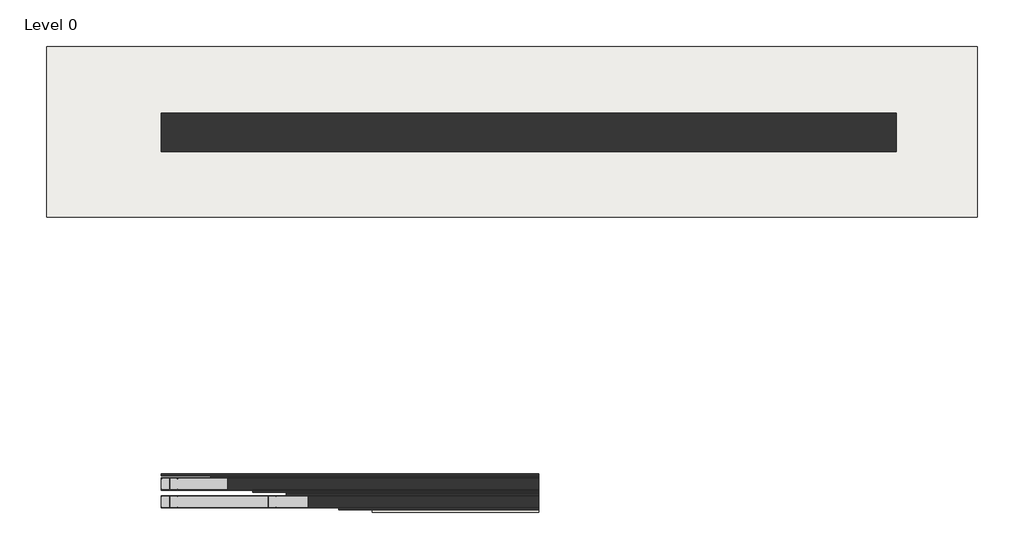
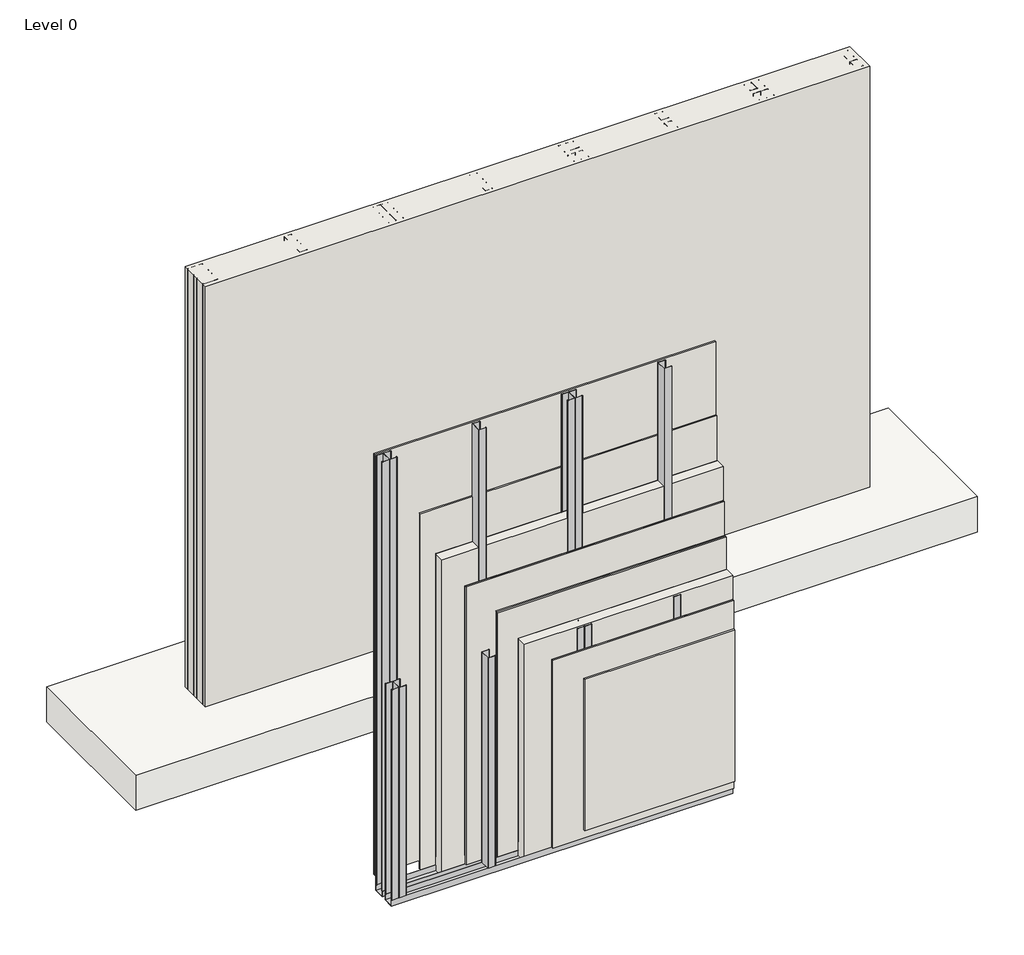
# One storey: 8 proxies, 2 walls, 1 slab.
"""IFC4 building model written with IfcOpenShell, lengths in millimetres."""

from ifc_helpers import new_model, si_unit, frame, origin, origin_with_axes, place, context, project, spatial, polyline, outline, extrude, transform, mapped, element, save
from components import generic_models_d371b926, generic_models_1c93a5be, generic_models_93a60fe8, horizontal_u_profile_75mm_horizontal_u_profile_75mm_bb70ac87, horizontal_u_profile_75mm_horizontal_u_profile_75mm_ae89cfe0

model = new_model("IFC4")

# Units and contexts
model_context = context("Model", 3, world=origin())
ifc_project = project(units=[si_unit("LENGTHUNIT", "METRE", prefix="MILLI")], contexts=[model_context])

# Site, building, storey
site = spatial("IfcSite", under=ifc_project)
building = spatial("IfcBuilding", under=site)
storey = spatial("IfcBuildingStorey", under=building, Name="Level 0", Elevation=0.0)

# Proxies
placement = place(None, origin())
generic_models_shape = generic_models_d371b926(model_context)
element("IfcBuildingElementProxy", 1, Name="C- 2xCprofile-75 : C- 2xCprofile-75", ObjectType="C- 2xCprofile-75 : C- 2xCprofile-75", at=placement, inside=storey, context=model_context, shape_type="MappedRepresentation", body=[
    mapped(generic_models_shape, transform((17885.0987507, -1538.0356313, -60.0), x_axis=(1.0, 0.0, 0.0), y_axis=(0.0, 0.0, 1.0), z_axis=(0.0, -1.0, 0.0))),
])
generic_models_2_shape = generic_models_1c93a5be(model_context)
element("IfcBuildingElementProxy", 2, Name="C- 2xCprofile-75 : C- 2xCprofile-75", ObjectType="C- 2xCprofile-75 : C- 2xCprofile-75", at=placement, inside=storey, context=model_context, shape_type="MappedRepresentation", body=[
    mapped(generic_models_2_shape, transform((17885.0987507, 661.9643687, 0.0), x_axis=(1.0, 0.0, 0.0), y_axis=(0.0, 0.0, 1.0), z_axis=(0.0, -1.0, 0.0))),
])
element("IfcBuildingElementProxy", 3, Name="C- 2xCprofile-75 : C- 2xCprofile-75", ObjectType="C- 2xCprofile-75 : C- 2xCprofile-75", at=placement, inside=storey, context=model_context, shape_type="MappedRepresentation", body=[
    mapped(generic_models_2_shape, transform((17885.0987507, 770.9643687, 0.0), x_axis=(1.0, 0.0, 0.0), y_axis=(0.0, 0.0, 1.0), z_axis=(0.0, -1.0, 0.0))),
])
generic_models_3_shape = generic_models_93a60fe8(model_context)
element("IfcBuildingElementProxy", 4, Name="C- 2xCprofile-75 : C- 2xCprofile-75", ObjectType="C- 2xCprofile-75 : C- 2xCprofile-75", at=placement, inside=storey, context=model_context, shape_type="MappedRepresentation", body=[
    mapped(generic_models_3_shape, transform((17885.0987507, -1429.0356313, -60.0), x_axis=(1.0, 0.0, 0.0), y_axis=(0.0, 0.0, 1.0), z_axis=(0.0, -1.0, 0.0))),
])
horizontal_u_profile_75mm_horizontal_u_profile_75mm_shape = horizontal_u_profile_75mm_horizontal_u_profile_75mm_bb70ac87(model_context)
element("IfcBuildingElementProxy", 5, Name="Horizontal U profile 75mm : Horizontal U profile 75mm", ObjectType="Horizontal U profile 75mm : Horizontal U profile 75mm", at=placement, inside=storey, context=model_context, shape_type="MappedRepresentation", body=[
    mapped(horizontal_u_profile_75mm_horizontal_u_profile_75mm_shape, transform((17808.6899394, 772.2643263, -100.0), x_axis=(1.0, 0.0, 0.0), y_axis=(0.0, 1.0, 0.0), z_axis=(0.0, 0.0, 1.0))),
])
element("IfcBuildingElementProxy", 6, Name="Horizontal U profile 75mm : Horizontal U profile 75mm", ObjectType="Horizontal U profile 75mm : Horizontal U profile 75mm", at=placement, inside=storey, context=model_context, shape_type="MappedRepresentation", body=[
    mapped(horizontal_u_profile_75mm_horizontal_u_profile_75mm_shape, transform((17808.6899394, 663.2643543, -100.0), x_axis=(1.0, 0.0, 0.0), y_axis=(0.0, 1.0, 0.0), z_axis=(0.0, 0.0, 1.0))),
])
horizontal_u_profile_75mm_horizontal_u_profile_75mm_2_shape = horizontal_u_profile_75mm_horizontal_u_profile_75mm_ae89cfe0(model_context)
element("IfcBuildingElementProxy", 7, Name="Horizontal U profile 75mm : Horizontal U profile 75mm", ObjectType="Horizontal U profile 75mm : Horizontal U profile 75mm", at=placement, inside=storey, context=model_context, shape_type="MappedRepresentation", body=[
    mapped(horizontal_u_profile_75mm_horizontal_u_profile_75mm_2_shape, transform((17808.6899394, -1427.7356737, -100.0), x_axis=(1.0, 0.0, 0.0), y_axis=(0.0, 1.0, 0.0), z_axis=(0.0, 0.0, 1.0))),
])
element("IfcBuildingElementProxy", 8, Name="Horizontal U profile 75mm : Horizontal U profile 75mm", ObjectType="Horizontal U profile 75mm : Horizontal U profile 75mm", at=placement, inside=storey, context=model_context, shape_type="MappedRepresentation", body=[
    mapped(horizontal_u_profile_75mm_horizontal_u_profile_75mm_2_shape, transform((17808.6899394, -1536.7356457, -100.0), x_axis=(1.0, 0.0, 0.0), y_axis=(0.0, 1.0, 0.0), z_axis=(0.0, 0.0, 1.0))),
])

# Slab
element("IfcSlab", 9, ObjectType="Floor-Jendy_Joss", at=placement, inside=storey, context=model_context, shape_type="SweptSolid", body=[
    extrude(outline(polyline([(22785.0987507, 1240.8230902), (22785.0987507, 200.8230902), (17109.653778, 200.8230902), (17109.653778, 1240.8230902), (22785.0987507, 1240.8230902)])), frame((0.0, 0.0, -250.0), z_axis=(0.0, 0.0, 1.0), x_axis=(1.0, 0.0, 0.0)), (0.0, 0.0, 1.0), 250.0),
])

# Walls
element("IfcWall", 10, ObjectType="Interior Wall_Modulo_JJ_I75cg+75cg", at=placement, inside=storey, context=model_context, shape_type="SweptSolid", body=[
    extrude(outline(polyline([(22289.653778, 599.4643687), (17809.653778, 599.4643687), (17809.653778, 833.4643687), (22289.653778, 833.4643687), (22289.653778, 599.4643687)])), origin_with_axes(), (0.0, 0.0, 1.0), 3000.0),
])
element("IfcWall", 11, ObjectType="Interior Wall_Modulo_JJ_I75cg+75cg", at=placement, inside=storey, context=model_context, shape_type="SweptSolid", body=[
    extrude(outline(polyline([(18889.653778, -1587.5356313), (18889.653778, -1575.5356313), (20109.653778, -1575.5356313), (20109.653778, -1587.5356313), (18889.653778, -1587.5356313)])), frame((0.0, 0.0, -60.0), z_axis=(0.0, 0.0, 1.0), x_axis=(1.0, 0.0, 0.0)), (0.0, 0.0, 1.0), 1340.0),
    extrude(outline(polyline([(18889.653778, -1575.5356313), (18889.653778, -1573.0356313), (20109.653778, -1573.0356313), (20109.653778, -1575.5356313), (18889.653778, -1575.5356313)])), origin_with_axes(), (0.0, 0.0, 1.0), 1280.0),
    extrude(outline(polyline([(18706.0950706, -1573.0356313), (18706.0950706, -1503.0356313), (20109.653778, -1503.0356313), (20109.653778, -1573.0356313), (18706.0950706, -1573.0356313)])), frame((0.0, 0.0, -99.2), z_axis=(0.0, 0.0, 1.0), x_axis=(1.0, 0.0, 0.0)), (0.0, 0.0, 1.0), 1549.9140997),
    extrude(outline(polyline([(18706.0950706, -1503.0356313), (18706.0950706, -1500.5356313), (20109.653778, -1500.5356313), (20109.653778, -1503.0356313), (18706.0950706, -1503.0356313)])), origin_with_axes(), (0.0, 0.0, 1.0), 1450.7140997),
    extrude(outline(polyline([(18569.653778, -1500.5356313), (18569.653778, -1488.5356313), (20109.653778, -1488.5356313), (20109.653778, -1500.5356313), (18569.653778, -1500.5356313)])), frame((0.0, 0.0, -60.0), z_axis=(0.0, 0.0, 1.0), x_axis=(1.0, 0.0, 0.0)), (0.0, 0.0, 1.0), 1740.0),
    extrude(outline(polyline([(18569.653778, -1488.5356313), (18569.653778, -1478.5356313), (20109.653778, -1478.5356313), (20109.653778, -1488.5356313), (18569.653778, -1488.5356313)])), origin_with_axes(), (0.0, 0.0, 1.0), 1680.0),
    extrude(outline(polyline([(17809.653778, -1366.5356313), (20109.653778, -1366.5356313), (20109.653778, -1379.5356313), (17809.653778, -1379.5356313), (17809.653778, -1366.5356313)])), origin_with_axes(), (0.0, 0.0, 1.0), 3000.0),
    extrude(outline(polyline([(20109.653778, -1600.5356313), (19096.5998831, -1600.5356313), (19096.5998831, -1587.5356313), (20109.653778, -1587.5356313), (20109.653778, -1600.5356313)])), origin_with_axes(), (0.0, 0.0, 1.0), 1080.0),
    extrude(outline(polyline([(18367.4778433, -1466.5356313), (18367.4778433, -1464.0356313), (20109.653778, -1464.0356313), (20109.653778, -1466.5356313), (18367.4778433, -1466.5356313)])), origin_with_axes(), (0.0, 0.0, 1.0), 1920.0),
    extrude(outline(polyline([(18213.9276021, -1464.0356313), (18213.9276021, -1394.0356313), (20109.653778, -1394.0356313), (20109.653778, -1464.0356313), (18213.9276021, -1464.0356313)])), frame((0.0, 0.0, -99.2), z_axis=(0.0, 0.0, 1.0), x_axis=(1.0, 0.0, 0.0)), (0.0, 0.0, 1.0), 2259.2),
    extrude(outline(polyline([(18213.9276021, -1394.0356313), (18213.9276021, -1391.5356313), (20109.653778, -1391.5356313), (20109.653778, -1394.0356313), (18213.9276021, -1394.0356313)])), origin_with_axes(), (0.0, 0.0, 1.0), 2160.0),
    extrude(outline(polyline([(18367.4778433, -1478.5356313), (18367.4778433, -1466.5356313), (20109.653778, -1466.5356313), (20109.653778, -1478.5356313), (18367.4778433, -1478.5356313)])), frame((0.0, 0.0, -60.0), z_axis=(0.0, 0.0, 1.0), x_axis=(1.0, 0.0, 0.0)), (0.0, 0.0, 1.0), 1980.0),
    extrude(outline(polyline([(18109.653778, -1391.5356313), (18109.653778, -1379.5356313), (20109.653778, -1379.5356313), (20109.653778, -1391.5356313), (18109.653778, -1391.5356313)])), frame((0.0, 0.0, -60.0), z_axis=(0.0, 0.0, 1.0), x_axis=(1.0, 0.0, 0.0)), (0.0, 0.0, 1.0), 2539.7351706),
])

save(model, "model.ifc")
